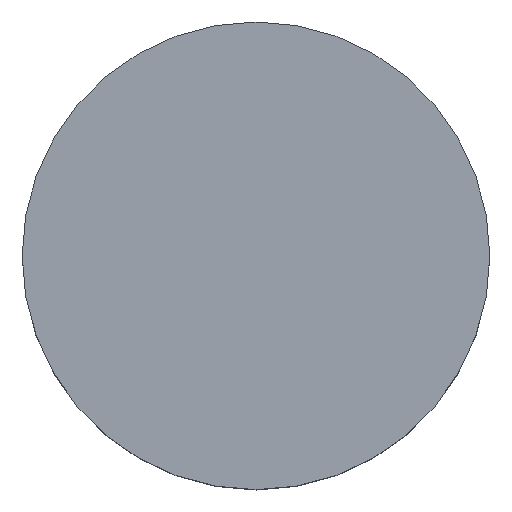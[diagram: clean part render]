
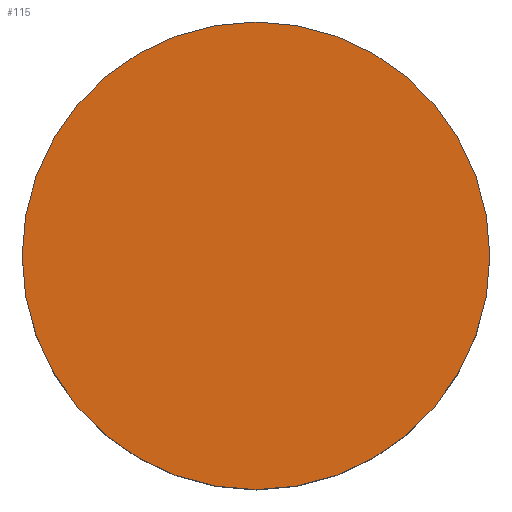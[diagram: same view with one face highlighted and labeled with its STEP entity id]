
A CAD part, top view. The second image highlights one B-rep face of the part: STEP entity #115.
In plain terms, the highlighted planar face has unit normal (0, 0, 1).
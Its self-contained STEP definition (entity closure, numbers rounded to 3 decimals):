
#115=ADVANCED_FACE('',(#129),#126,.T.);
#126=PLANE('',#242);
#129=FACE_OUTER_BOUND('',#139,.T.);
#139=EDGE_LOOP('',(#151,#152));
#151=ORIENTED_EDGE('',*,*,#203,.F.);
#152=ORIENTED_EDGE('',*,*,#204,.F.);
#191=VERTEX_POINT('',#329);
#192=VERTEX_POINT('',#330);
#203=EDGE_CURVE('',#191,#192,#223,.T.);
#204=EDGE_CURVE('',#192,#191,#224,.T.);
#223=CIRCLE('',#240,6.5);
#224=CIRCLE('',#241,6.5);
#240=AXIS2_PLACEMENT_3D('',#328,#269,#270);
#241=AXIS2_PLACEMENT_3D('',#331,#271,#272);
#242=AXIS2_PLACEMENT_3D('',#332,#273,#274);
#269=DIRECTION('',(0.,0.,-1.));
#270=DIRECTION('',(-1.,0.,0.));
#271=DIRECTION('',(0.,0.,-1.));
#272=DIRECTION('',(1.,0.,0.));
#273=DIRECTION('',(0.,0.,1.));
#274=DIRECTION('',(1.,0.,0.));
#328=CARTESIAN_POINT('',(0.,0.,5.));
#329=CARTESIAN_POINT('',(0.,6.5,5.));
#330=CARTESIAN_POINT('',(0.,-6.5,5.));
#331=CARTESIAN_POINT('',(0.,0.,5.));
#332=CARTESIAN_POINT('',(0.,0.,5.));
